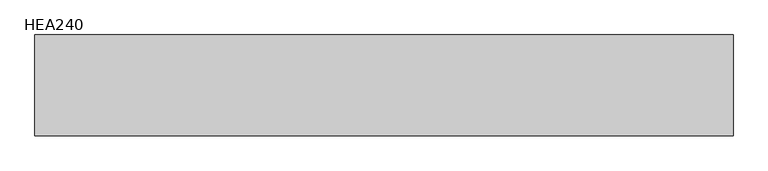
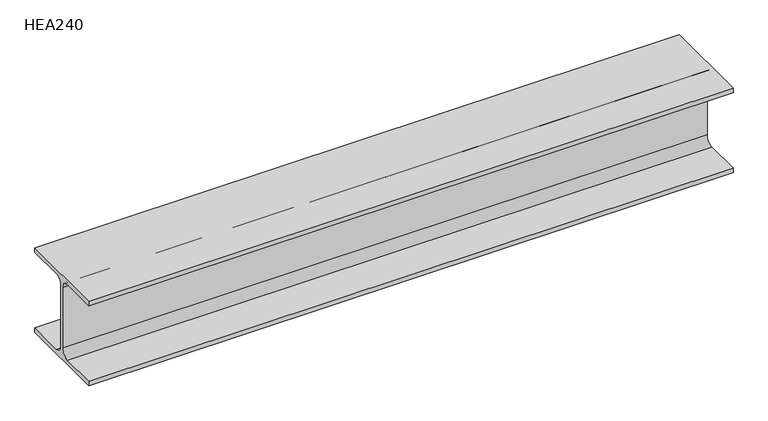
"""IFC4 building model written with IfcOpenShell, lengths in millimetres: beam geometry, HE-A : HEA240."""

from ifc_helpers import new_model, si_unit, point, frame, frame_2d, origin, place, context, project, spatial, polyline, circle_curve, trimmed, segment, composite_curve, outline, extrude, source, transform, mapped, element, save


def hea240_2c2d895f(model_context):
    return source(origin(), model_context, "Body", "SweptSolid", [
        extrude(outline(composite_curve([segment(polyline([(120.0, -103.0), (120.0, -115.0), (-120.0, -115.0), (-120.0, -103.0), (-24.75, -103.0)]), True, "CONTINUOUS"), segment(trimmed(circle_curve(frame_2d((-24.75, -82.0)), 21.0), [point((-24.75, -103.0))], [point((-3.75, -82.0))], True, "CARTESIAN"), True, "CONTINUOUS"), segment(polyline([(-3.75, -82.0), (-3.75, 82.0)]), True, "CONTINUOUS"), segment(trimmed(circle_curve(frame_2d((-24.75, 82.0)), 21.0), [point((-3.75, 82.0))], [point((-24.75, 103.0))], True, "CARTESIAN"), True, "CONTINUOUS"), segment(polyline([(-24.75, 103.0), (-120.0, 103.0), (-120.0, 115.0), (120.0, 115.0), (120.0, 103.0), (24.75, 103.0)]), True, "CONTINUOUS"), segment(trimmed(circle_curve(frame_2d((24.75, 82.0)), 21.0), [point((24.75, 103.0))], [point((3.75, 82.0))], True, "CARTESIAN"), True, "CONTINUOUS"), segment(polyline([(3.75, 82.0), (3.75, -82.0)]), True, "CONTINUOUS"), segment(trimmed(circle_curve(frame_2d((24.75, -82.0)), 21.0), [point((3.75, -82.0))], [point((24.75, -103.0))], True, "CARTESIAN"), True, "CONTINUOUS"), segment(polyline([(24.75, -103.0), (120.0, -103.0)]), True, "CONTINUOUS")], self_intersect=False)), frame((-832.3, 0.0, 0.0), z_axis=(1.0, 0.0, 0.0), x_axis=(0.0, 1.0, 0.0)), (0.0, 0.0, 1.0), 1659.9),
    ])


if __name__ == "__main__":
    model = new_model("IFC4")
    model_context = context("Model", 3, world=origin())
    ifc_project = project(units=[si_unit("LENGTHUNIT", "METRE", prefix="MILLI")], contexts=[model_context])
    site = spatial("IfcSite", under=ifc_project)
    building = spatial("IfcBuilding", under=site)
    placement = place(None, origin())
    hea240_shape = hea240_2c2d895f(model_context)
    element("IfcBeam", 1, ObjectType="HE-A : HEA240", at=placement, inside=building, context=model_context, shape_type="MappedRepresentation", body=[
        mapped(hea240_shape, transform((0.0, 0.0, 0.0), x_axis=(1.0, 0.0, 0.0), y_axis=(0.0, 1.0, 0.0), z_axis=(0.0, 0.0, 1.0))),
    ])
    save(model, "model.ifc")
